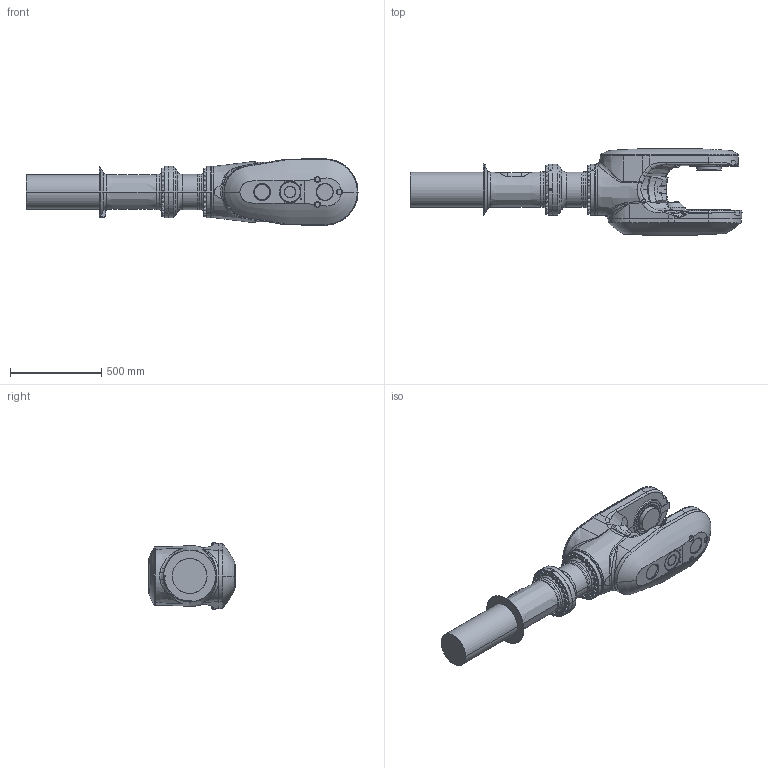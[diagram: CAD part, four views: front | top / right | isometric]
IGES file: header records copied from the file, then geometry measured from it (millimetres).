
Start section: SolidWorks IGES file using analytic representation for surfaces
Global section: file name: B:\DM\Robotics\SEROP_PROJ\Product Development\DevelopmentProjects\Manipulator_Modularity\04. Product Design\06. CAD\Amanda\7710 Lightweight models\IRB7710_430kg-310_OC_00_SW_J\IRB7710_430kg-310_OC_00_IGES_J\IRB7710_All-310_OC_00_LINK04_CAD.IGS; native system: SolidWorks 2022; preprocessor: SolidWorks 2022; author: SEAMSTO1; date: 240119.081028; units: millimetre
Bounding box: 1816.38 x 475.5 x 362.32 mm (x, y, z)
Surface area: 2148040.5 mm2 (no closed solid volume)
Topology: 0 solids, 0 shells, 884 faces, 15752 edges, 15729 vertices
Faces by surface type: bspline 451, revolution 433
